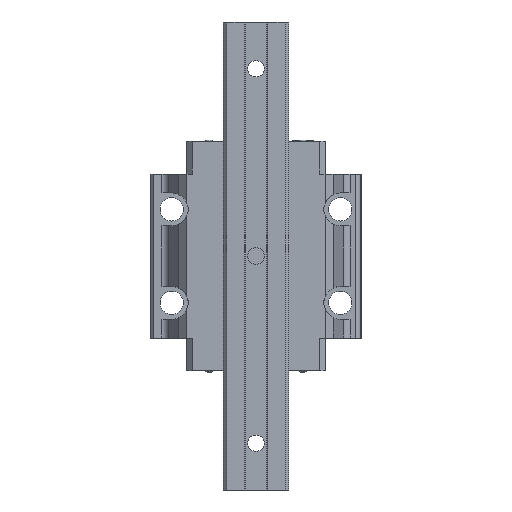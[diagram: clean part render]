
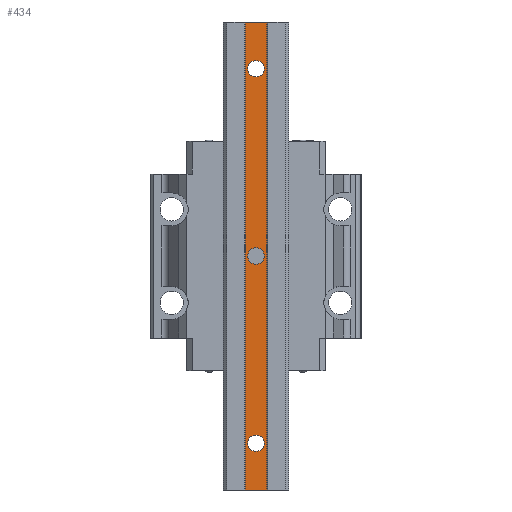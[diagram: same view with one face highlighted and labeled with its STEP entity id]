
A CAD part, front view. The second image highlights one B-rep face of the part: STEP entity #434.
In plain terms, the highlighted planar face has unit normal (0, -1, 0).
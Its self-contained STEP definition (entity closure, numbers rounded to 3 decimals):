
#291=FACE_BOUND('',#1061,.T.);
#292=FACE_BOUND('',#1062,.T.);
#293=FACE_BOUND('',#1063,.T.);
#294=FACE_BOUND('',#1064,.T.);
#434=ADVANCED_FACE('',(#291,#292,#293,#294),#674,.T.);
#674=PLANE('',#5084);
#1061=EDGE_LOOP('',(#2297,#2298,#2299,#2300));
#1062=EDGE_LOOP('',(#2301,#2302));
#1063=EDGE_LOOP('',(#2303,#2304));
#1064=EDGE_LOOP('',(#2305,#2306));
#1328=LINE('',#6761,#1738);
#1370=LINE('',#6895,#1780);
#1371=LINE('',#6897,#1781);
#1372=LINE('',#6899,#1782);
#1738=VECTOR('',#5472,1.);
#1780=VECTOR('',#5608,1.);
#1781=VECTOR('',#5611,1.);
#1782=VECTOR('',#5612,1.);
#2297=ORIENTED_EDGE('',*,*,#4195,.F.);
#2298=ORIENTED_EDGE('',*,*,#4196,.T.);
#2299=ORIENTED_EDGE('',*,*,#4197,.T.);
#2300=ORIENTED_EDGE('',*,*,#4128,.F.);
#2301=ORIENTED_EDGE('',*,*,#4198,.F.);
#2302=ORIENTED_EDGE('',*,*,#4199,.F.);
#2303=ORIENTED_EDGE('',*,*,#4200,.F.);
#2304=ORIENTED_EDGE('',*,*,#4201,.F.);
#2305=ORIENTED_EDGE('',*,*,#4202,.F.);
#2306=ORIENTED_EDGE('',*,*,#4203,.F.);
#3634=VERTEX_POINT('',#6760);
#3635=VERTEX_POINT('',#6762);
#3679=VERTEX_POINT('',#6894);
#3680=VERTEX_POINT('',#6898);
#3681=VERTEX_POINT('',#6901);
#3682=VERTEX_POINT('',#6902);
#3683=VERTEX_POINT('',#6905);
#3684=VERTEX_POINT('',#6906);
#3685=VERTEX_POINT('',#6909);
#3686=VERTEX_POINT('',#6910);
#4128=EDGE_CURVE('',#3634,#3635,#1328,.T.);
#4195=EDGE_CURVE('',#3679,#3634,#1370,.T.);
#4196=EDGE_CURVE('',#3679,#3680,#1371,.T.);
#4197=EDGE_CURVE('',#3680,#3635,#1372,.T.);
#4198=EDGE_CURVE('',#3681,#3682,#4866,.T.);
#4199=EDGE_CURVE('',#3682,#3681,#4867,.T.);
#4200=EDGE_CURVE('',#3683,#3684,#4868,.T.);
#4201=EDGE_CURVE('',#3684,#3683,#4869,.T.);
#4202=EDGE_CURVE('',#3685,#3686,#4870,.T.);
#4203=EDGE_CURVE('',#3686,#3685,#4871,.T.);
#4866=CIRCLE('',#5078,3.5);
#4867=CIRCLE('',#5079,3.5);
#4868=CIRCLE('',#5080,3.5);
#4869=CIRCLE('',#5081,3.5);
#4870=CIRCLE('',#5082,3.5);
#4871=CIRCLE('',#5083,3.5);
#5078=AXIS2_PLACEMENT_3D('',#6900,#5613,#5614);
#5079=AXIS2_PLACEMENT_3D('',#6903,#5615,#5616);
#5080=AXIS2_PLACEMENT_3D('',#6904,#5617,#5618);
#5081=AXIS2_PLACEMENT_3D('',#6907,#5619,#5620);
#5082=AXIS2_PLACEMENT_3D('',#6908,#5621,#5622);
#5083=AXIS2_PLACEMENT_3D('',#6911,#5623,#5624);
#5084=AXIS2_PLACEMENT_3D('',#6912,#5625,#5626);
#5472=DIRECTION('',(-1.,0.,0.));
#5608=DIRECTION('',(0.,0.,-1.));
#5611=DIRECTION('',(-1.,0.,0.));
#5612=DIRECTION('',(0.,0.,-1.));
#5613=DIRECTION('',(0.,-1.,0.));
#5614=DIRECTION('',(0.,0.,-1.));
#5615=DIRECTION('',(0.,-1.,0.));
#5616=DIRECTION('',(0.,0.,1.));
#5617=DIRECTION('',(0.,-1.,0.));
#5618=DIRECTION('',(0.,0.,-1.));
#5619=DIRECTION('',(0.,-1.,0.));
#5620=DIRECTION('',(0.,0.,1.));
#5621=DIRECTION('',(0.,-1.,0.));
#5622=DIRECTION('',(0.,0.,-1.));
#5623=DIRECTION('',(0.,-1.,0.));
#5624=DIRECTION('',(0.,0.,1.));
#5625=DIRECTION('',(0.,-1.,0.));
#5626=DIRECTION('',(1.,0.,0.));
#6760=CARTESIAN_POINT('',(4.5,-22.5,-135.));
#6761=CARTESIAN_POINT('',(4.5,-22.5,-135.));
#6762=CARTESIAN_POINT('',(-4.5,-22.5,-135.));
#6894=CARTESIAN_POINT('',(4.5,-22.5,65.));
#6895=CARTESIAN_POINT('',(4.5,-22.5,65.));
#6897=CARTESIAN_POINT('',(4.5,-22.5,65.));
#6898=CARTESIAN_POINT('',(-4.5,-22.5,65.));
#6899=CARTESIAN_POINT('',(-4.5,-22.5,65.));
#6900=CARTESIAN_POINT('',(0.,-22.5,45.));
#6901=CARTESIAN_POINT('',(0.,-22.5,41.5));
#6902=CARTESIAN_POINT('',(0.,-22.5,48.5));
#6903=CARTESIAN_POINT('',(0.,-22.5,45.));
#6904=CARTESIAN_POINT('',(0.,-22.5,-35.));
#6905=CARTESIAN_POINT('',(0.,-22.5,-38.5));
#6906=CARTESIAN_POINT('',(0.,-22.5,-31.5));
#6907=CARTESIAN_POINT('',(0.,-22.5,-35.));
#6908=CARTESIAN_POINT('',(0.,-22.5,-115.));
#6909=CARTESIAN_POINT('',(0.,-22.5,-118.5));
#6910=CARTESIAN_POINT('',(0.,-22.5,-111.5));
#6911=CARTESIAN_POINT('',(0.,-22.5,-115.));
#6912=CARTESIAN_POINT('',(-4.5,-22.5,-100.1));
